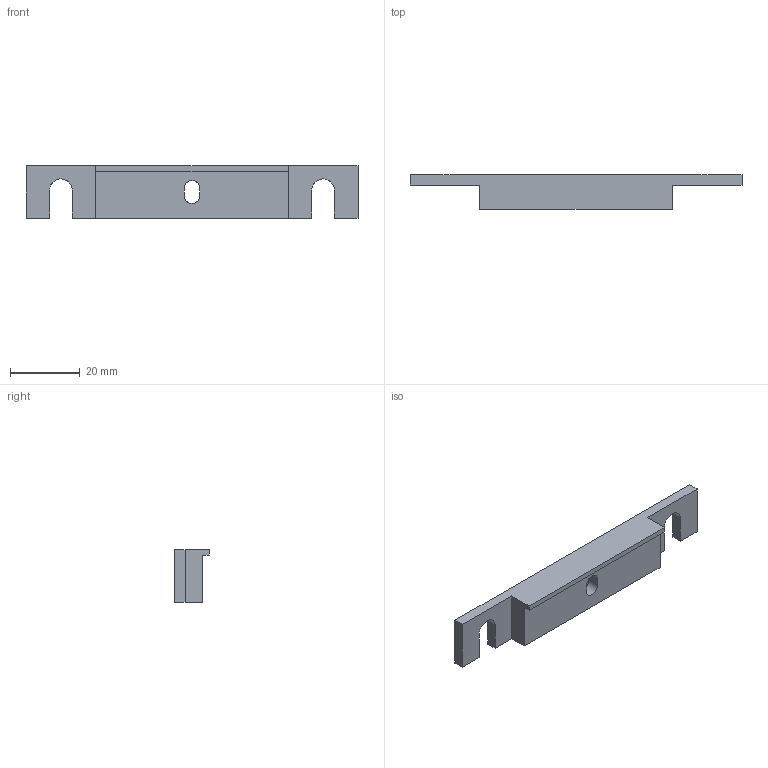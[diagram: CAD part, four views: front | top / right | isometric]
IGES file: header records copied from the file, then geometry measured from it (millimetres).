
Global section: file name: C30-BMP-M6; native system: Autodesk Inventor 2018; preprocessor: unknown; author: ka.nakajima; date: 20181113.140111; units: millimetre
Bounding box: 95 x 10 x 15 mm (x, y, z)
Volume: 7767.6 mm3; surface area: 4425 mm2
Topology: 1 solids, 1 shells, 29 faces, 78 edges, 52 vertices
Faces by surface type: bspline 29
